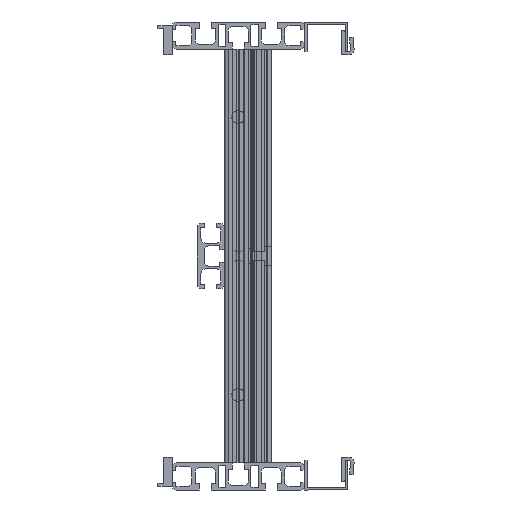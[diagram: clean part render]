
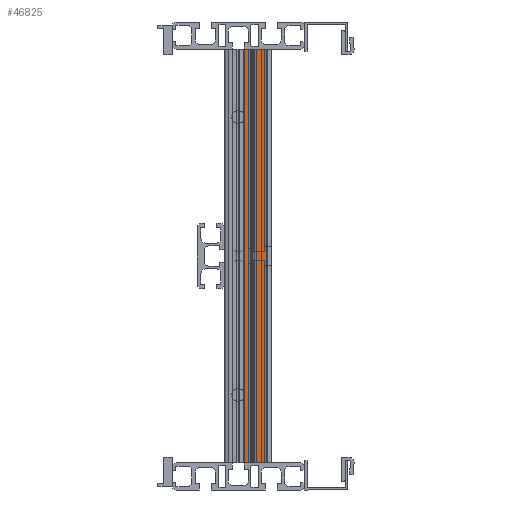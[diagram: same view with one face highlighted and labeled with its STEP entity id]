
A CAD part, left-side view. The second image highlights one B-rep face of the part: STEP entity #46825.
In plain terms, the highlighted planar face has unit normal (-1, 0, 0).
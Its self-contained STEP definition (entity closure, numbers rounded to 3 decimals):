
#3203 = PLANE ( 'NONE',  #18224 ) ;
#3211 = CARTESIAN_POINT ( 'NONE',  ( -2410., -65., -141.5 ) ) ;
#3216 = DIRECTION ( 'NONE',  ( 1., 0., 0. ) ) ;
#3217 = DIRECTION ( 'NONE',  ( 0., 0., -1. ) ) ;
#8197 = ORIENTED_EDGE ( 'NONE', *, *, #32433, .F. ) ;
#8474 = ORIENTED_EDGE ( 'NONE', *, *, #32434, .F. ) ;
#9262 = ORIENTED_EDGE ( 'NONE', *, *, #32430, .T. ) ;
#9331 = ORIENTED_EDGE ( 'NONE', *, *, #32432, .T. ) ;
#10250 = DIRECTION ( 'NONE',  ( 0., 0., 1. ) ) ;
#10256 = CARTESIAN_POINT ( 'NONE',  ( -2410., -65., -141.5 ) ) ;
#10259 = DIRECTION ( 'NONE',  ( 0., 1., 0. ) ) ;
#10263 = CARTESIAN_POINT ( 'NONE',  ( -2410., -65., 141.5 ) ) ;
#10265 = CARTESIAN_POINT ( 'NONE',  ( -2410., -65., -141.5 ) ) ;
#10269 = CARTESIAN_POINT ( 'NONE',  ( -2410., -49.15, -141.5 ) ) ;
#10271 = DIRECTION ( 'NONE',  ( 0., 0., 1. ) ) ;
#10272 = DIRECTION ( 'NONE',  ( 0., 1., 0. ) ) ;
#16712 = LINE ( 'NONE', #10256, #16714 ) ;
#16713 = LINE ( 'NONE', #10265, #16721 ) ;
#16714 = VECTOR ( 'NONE', #10250, 1000. ) ;
#16715 = LINE ( 'NONE', #10263, #16717 ) ;
#16716 = LINE ( 'NONE', #10269, #16719 ) ;
#16717 = VECTOR ( 'NONE', #10259, 1000. ) ;
#16719 = VECTOR ( 'NONE', #10271, 1000. ) ;
#16721 = VECTOR ( 'NONE', #10272, 1000. ) ;
#18224 = AXIS2_PLACEMENT_3D ( 'NONE', #3211, #3216, #3217 ) ;
#19678 = CARTESIAN_POINT ( 'NONE',  ( -2410., -65., 141.5 ) ) ;
#20190 = EDGE_LOOP ( 'NONE', ( #9331, #8197, #8474, #9262 ) ) ;
#22095 = FACE_OUTER_BOUND ( 'NONE', #20190, .T. ) ;
#23769 = CARTESIAN_POINT ( 'NONE',  ( -2410., -49.15, -141.5 ) ) ;
#23825 = CARTESIAN_POINT ( 'NONE',  ( -2410., -65., -141.5 ) ) ;
#23856 = CARTESIAN_POINT ( 'NONE',  ( -2410., -49.15, 141.5 ) ) ;
#29858 = VERTEX_POINT ( 'NONE', #23769 ) ;
#29916 = VERTEX_POINT ( 'NONE', #23825 ) ;
#29948 = VERTEX_POINT ( 'NONE', #23856 ) ;
#30444 = VERTEX_POINT ( 'NONE', #19678 ) ;
#32430 = EDGE_CURVE ( 'NONE', #29916, #30444, #16712, .T. ) ;
#32432 = EDGE_CURVE ( 'NONE', #30444, #29948, #16715, .T. ) ;
#32433 = EDGE_CURVE ( 'NONE', #29858, #29948, #16716, .T. ) ;
#32434 = EDGE_CURVE ( 'NONE', #29916, #29858, #16713, .T. ) ;
#46825 = ADVANCED_FACE ( 'NONE', ( #22095 ), #3203, .F. ) ;
